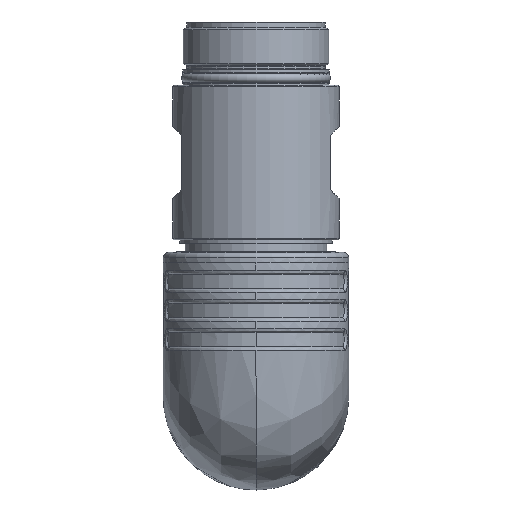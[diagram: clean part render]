
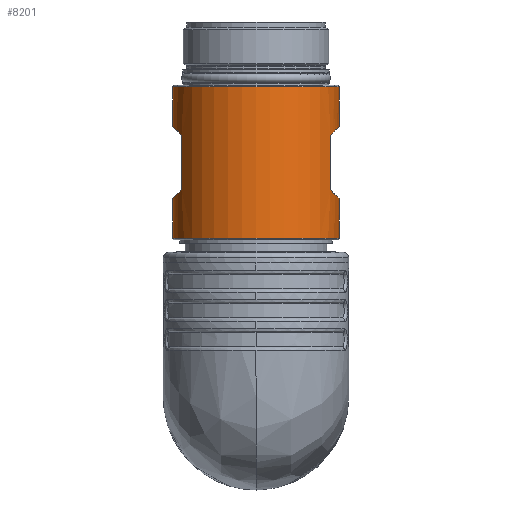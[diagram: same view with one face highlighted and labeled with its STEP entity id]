
A CAD part, front view. The second image highlights one B-rep face of the part: STEP entity #8201.
In plain terms, the highlighted cylindrical face has radius 22.9 mm (diameter 45.8 mm), a full revolution.
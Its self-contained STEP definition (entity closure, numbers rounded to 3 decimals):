
#386=ELLIPSE('',#8727,32.385,22.9);
#387=ELLIPSE('',#8728,32.385,22.9);
#388=ELLIPSE('',#8729,32.385,22.9);
#389=ELLIPSE('',#8730,32.385,22.9);
#838=FACE_BOUND('',#1442,.T.);
#839=FACE_BOUND('',#1443,.T.);
#840=FACE_BOUND('',#1444,.T.);
#841=FACE_BOUND('',#1445,.T.);
#954=FACE_OUTER_BOUND('',#1441,.T.);
#1441=EDGE_LOOP('',(#5379));
#1442=EDGE_LOOP('',(#5380,#5381,#5382,#5383));
#1443=EDGE_LOOP('',(#5384));
#1444=EDGE_LOOP('',(#5385,#5386,#5387,#5388));
#1445=EDGE_LOOP('',(#5389,#5390,#5391,#5392));
#1937=LINE('',#11728,#2483);
#1938=LINE('',#11731,#2484);
#1939=LINE('',#11736,#2485);
#1940=LINE('',#11739,#2486);
#1941=LINE('',#11744,#2487);
#1942=LINE('',#11747,#2488);
#2483=VECTOR('',#9561,1000.);
#2484=VECTOR('',#9564,1000.);
#2485=VECTOR('',#9567,1000.);
#2486=VECTOR('',#9570,1000.);
#2487=VECTOR('',#9573,1000.);
#2488=VECTOR('',#9576,1000.);
#3082=CIRCLE('',#8723,22.9);
#3084=CIRCLE('',#8726,22.9);
#3085=CIRCLE('',#8731,22.9);
#3086=CIRCLE('',#8732,22.9);
#3340=VERTEX_POINT('',#11717);
#3342=VERTEX_POINT('',#11722);
#3343=VERTEX_POINT('',#11724);
#3344=VERTEX_POINT('',#11725);
#3345=VERTEX_POINT('',#11727);
#3346=VERTEX_POINT('',#11729);
#3347=VERTEX_POINT('',#11732);
#3348=VERTEX_POINT('',#11733);
#3349=VERTEX_POINT('',#11735);
#3350=VERTEX_POINT('',#11737);
#3351=VERTEX_POINT('',#11740);
#3352=VERTEX_POINT('',#11741);
#3353=VERTEX_POINT('',#11743);
#3354=VERTEX_POINT('',#11745);
#4178=EDGE_CURVE('',#3340,#3340,#3082,.T.);
#4180=EDGE_CURVE('',#3342,#3342,#3084,.T.);
#4181=EDGE_CURVE('',#3343,#3344,#386,.T.);
#4182=EDGE_CURVE('',#3343,#3345,#1937,.T.);
#4183=EDGE_CURVE('',#3346,#3345,#387,.T.);
#4184=EDGE_CURVE('',#3344,#3346,#1938,.T.);
#4185=EDGE_CURVE('',#3347,#3348,#388,.T.);
#4186=EDGE_CURVE('',#3349,#3347,#1939,.T.);
#4187=EDGE_CURVE('',#3350,#3349,#389,.T.);
#4188=EDGE_CURVE('',#3350,#3348,#1940,.T.);
#4189=EDGE_CURVE('',#3351,#3352,#3085,.T.);
#4190=EDGE_CURVE('',#3351,#3353,#1941,.T.);
#4191=EDGE_CURVE('',#3353,#3354,#3086,.T.);
#4192=EDGE_CURVE('',#3352,#3354,#1942,.T.);
#5379=ORIENTED_EDGE('',*,*,#4180,.F.);
#5380=ORIENTED_EDGE('',*,*,#4181,.F.);
#5381=ORIENTED_EDGE('',*,*,#4182,.T.);
#5382=ORIENTED_EDGE('',*,*,#4183,.F.);
#5383=ORIENTED_EDGE('',*,*,#4184,.F.);
#5384=ORIENTED_EDGE('',*,*,#4178,.T.);
#5385=ORIENTED_EDGE('',*,*,#4185,.F.);
#5386=ORIENTED_EDGE('',*,*,#4186,.F.);
#5387=ORIENTED_EDGE('',*,*,#4187,.F.);
#5388=ORIENTED_EDGE('',*,*,#4188,.T.);
#5389=ORIENTED_EDGE('',*,*,#4189,.F.);
#5390=ORIENTED_EDGE('',*,*,#4190,.T.);
#5391=ORIENTED_EDGE('',*,*,#4191,.T.);
#5392=ORIENTED_EDGE('',*,*,#4192,.F.);
#7678=CYLINDRICAL_SURFACE('',#8725,22.9);
#8201=ADVANCED_FACE('',(#954,#838,#839,#840,#841),#7678,.T.);
#8723=AXIS2_PLACEMENT_3D('',#11718,#9551,#9552);
#8725=AXIS2_PLACEMENT_3D('',#11721,#9555,#9556);
#8726=AXIS2_PLACEMENT_3D('',#11723,#9557,#9558);
#8727=AXIS2_PLACEMENT_3D('',#11726,#9559,#9560);
#8728=AXIS2_PLACEMENT_3D('',#11730,#9562,#9563);
#8729=AXIS2_PLACEMENT_3D('',#11734,#9565,#9566);
#8730=AXIS2_PLACEMENT_3D('',#11738,#9568,#9569);
#8731=AXIS2_PLACEMENT_3D('',#11742,#9571,#9572);
#8732=AXIS2_PLACEMENT_3D('',#11746,#9574,#9575);
#9551=DIRECTION('center_axis',(0.,0.,-1.));
#9552=DIRECTION('ref_axis',(0.,-1.,0.));
#9555=DIRECTION('center_axis',(0.,0.,1.));
#9556=DIRECTION('ref_axis',(1.,0.,0.));
#9557=DIRECTION('center_axis',(0.,0.,-1.));
#9558=DIRECTION('ref_axis',(0.,-1.,0.));
#9559=DIRECTION('center_axis',(0.707,0.,0.707));
#9560=DIRECTION('ref_axis',(0.707,0.,-0.707));
#9561=DIRECTION('',(0.,0.,1.));
#9562=DIRECTION('center_axis',(0.707,0.,-0.707));
#9563=DIRECTION('ref_axis',(0.707,0.,0.707));
#9564=DIRECTION('',(0.,0.,1.));
#9565=DIRECTION('center_axis',(-0.707,0.,
-0.707));
#9566=DIRECTION('ref_axis',(0.707,0.,-0.707));
#9567=DIRECTION('',(0.,0.,1.));
#9568=DIRECTION('center_axis',(-0.707,0.,
0.707));
#9569=DIRECTION('ref_axis',(0.707,0.,0.707));
#9570=DIRECTION('',(0.,0.,1.));
#9571=DIRECTION('center_axis',(0.,0.,1.));
#9572=DIRECTION('ref_axis',(1.,0.,0.));
#9573=DIRECTION('',(0.,0.,1.));
#9574=DIRECTION('center_axis',(0.,0.,1.));
#9575=DIRECTION('ref_axis',(1.,0.,0.));
#9576=DIRECTION('',(0.,0.,1.));
#11717=CARTESIAN_POINT('',(22.9,0.,-17.8));
#11718=CARTESIAN_POINT('Origin',(0.,0.,-17.8));
#11721=CARTESIAN_POINT('Origin',(0.,0.,-90.93));
#11722=CARTESIAN_POINT('',(22.9,0.,-59.5));
#11723=CARTESIAN_POINT('Origin',(0.,0.,-59.5));
#11724=CARTESIAN_POINT('',(20.5,-10.206,-46.15));
#11725=CARTESIAN_POINT('',(20.5,10.206,-46.15));
#11726=CARTESIAN_POINT('Origin',(0.,0.,
-25.65));
#11727=CARTESIAN_POINT('',(20.5,-10.206,-31.15));
#11728=CARTESIAN_POINT('',(20.5,-10.206,-46.15));
#11729=CARTESIAN_POINT('',(20.5,10.206,-31.15));
#11730=CARTESIAN_POINT('Origin',(0.,0.,
-51.65));
#11731=CARTESIAN_POINT('',(20.5,10.206,-46.15));
#11732=CARTESIAN_POINT('',(-20.5,-10.206,-31.15));
#11733=CARTESIAN_POINT('',(-20.5,10.206,-31.15));
#11734=CARTESIAN_POINT('Origin',(0.,0.,
-51.65));
#11735=CARTESIAN_POINT('',(-20.5,-10.206,-46.15));
#11736=CARTESIAN_POINT('',(-20.5,-10.206,-46.15));
#11737=CARTESIAN_POINT('',(-20.5,10.206,-46.15));
#11738=CARTESIAN_POINT('Origin',(0.,0.,
-25.65));
#11739=CARTESIAN_POINT('',(-20.5,10.206,-46.15));
#11740=CARTESIAN_POINT('',(0.397,22.897,-56.9));
#11741=CARTESIAN_POINT('',(-0.397,22.897,-56.9));
#11742=CARTESIAN_POINT('Origin',(0.,0.,-56.9));
#11743=CARTESIAN_POINT('',(0.397,22.897,-20.4));
#11744=CARTESIAN_POINT('',(0.397,22.897,-56.9));
#11745=CARTESIAN_POINT('',(-0.397,22.897,-20.4));
#11746=CARTESIAN_POINT('Origin',(0.,0.,-20.4));
#11747=CARTESIAN_POINT('',(-0.397,22.897,-56.9));
